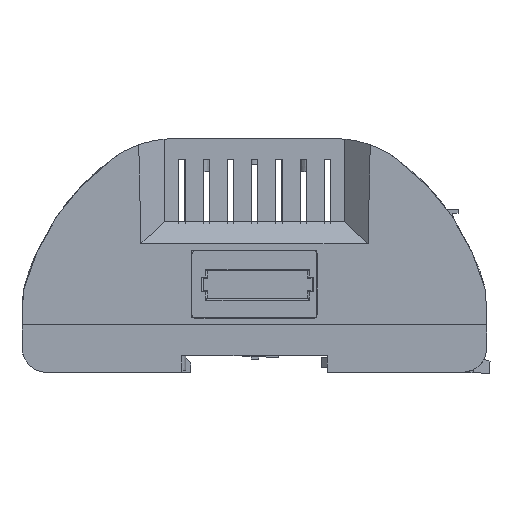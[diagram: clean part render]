
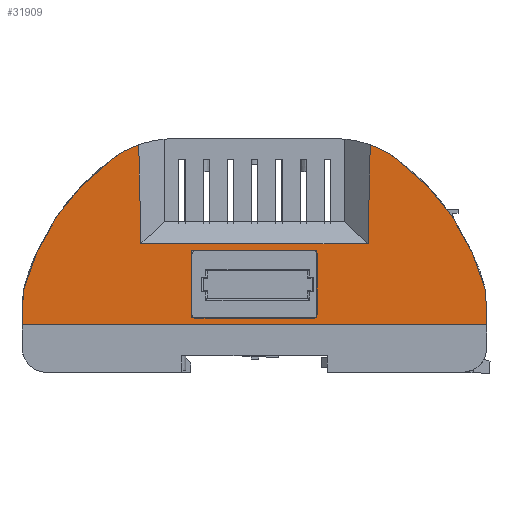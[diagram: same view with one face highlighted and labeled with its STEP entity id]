
A CAD part, front view. The second image highlights one B-rep face of the part: STEP entity #31909.
In plain terms, the highlighted planar face has unit normal (0, -1, 0) as drawn and (-1, 0, 0) by its records, which use the part's own axes.
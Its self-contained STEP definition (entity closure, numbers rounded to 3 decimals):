
#1635=LINE('',#50651,#5247);
#1637=LINE('',#50655,#5249);
#1642=LINE('',#50665,#5254);
#2495=LINE('',#53290,#6107);
#2525=LINE('',#53486,#6137);
#2531=LINE('',#53500,#6143);
#2541=LINE('',#53536,#6153);
#2542=LINE('',#53538,#6154);
#2543=LINE('',#53540,#6155);
#2544=LINE('',#53541,#6156);
#5247=VECTOR('',#38605,1000.);
#5249=VECTOR('',#38609,1000.);
#5254=VECTOR('',#38616,1000.);
#6107=VECTOR('',#40319,1000.);
#6137=VECTOR('',#40373,1000.);
#6143=VECTOR('',#40381,1000.);
#6153=VECTOR('',#40409,1000.);
#6154=VECTOR('',#40412,1000.);
#6155=VECTOR('',#40415,1000.);
#6156=VECTOR('',#40416,1000.);
#12631=ORIENTED_EDGE('',*,*,#19878,.F.);
#12632=ORIENTED_EDGE('',*,*,#19952,.F.);
#12633=ORIENTED_EDGE('',*,*,#19904,.T.);
#12634=ORIENTED_EDGE('',*,*,#19953,.T.);
#12635=ORIENTED_EDGE('',*,*,#19932,.F.);
#12636=ORIENTED_EDGE('',*,*,#19954,.F.);
#12637=ORIENTED_EDGE('',*,*,#19938,.F.);
#12638=ORIENTED_EDGE('',*,*,#19955,.T.);
#12639=ORIENTED_EDGE('',*,*,#19897,.T.);
#12640=ORIENTED_EDGE('',*,*,#19956,.F.);
#12641=ORIENTED_EDGE('',*,*,#18815,.F.);
#12642=ORIENTED_EDGE('',*,*,#18810,.F.);
#12643=ORIENTED_EDGE('',*,*,#18808,.F.);
#12644=ORIENTED_EDGE('',*,*,#19957,.F.);
#18808=EDGE_CURVE('',#23058,#23059,#1635,.T.);
#18810=EDGE_CURVE('',#23059,#23060,#1637,.T.);
#18815=EDGE_CURVE('',#23060,#23063,#1642,.T.);
#19878=EDGE_CURVE('',#23795,#23796,#2495,.T.);
#19897=EDGE_CURVE('',#23807,#23806,#25450,.T.);
#19904=EDGE_CURVE('',#23813,#23812,#25451,.T.);
#19932=EDGE_CURVE('',#23838,#23839,#2525,.T.);
#19938=EDGE_CURVE('',#23844,#23845,#2531,.T.);
#19952=EDGE_CURVE('',#23813,#23795,#2541,.T.);
#19953=EDGE_CURVE('',#23812,#23839,#25453,.T.);
#19954=EDGE_CURVE('',#23845,#23838,#2542,.T.);
#19955=EDGE_CURVE('',#23844,#23807,#25454,.T.);
#19956=EDGE_CURVE('',#23796,#23806,#2543,.T.);
#19957=EDGE_CURVE('',#23063,#23058,#2544,.T.);
#23058=VERTEX_POINT('',#50650);
#23059=VERTEX_POINT('',#50652);
#23060=VERTEX_POINT('',#50656);
#23063=VERTEX_POINT('',#50663);
#23795=VERTEX_POINT('',#53289);
#23796=VERTEX_POINT('',#53291);
#23806=VERTEX_POINT('',#53335);
#23807=VERTEX_POINT('',#53337);
#23812=VERTEX_POINT('',#53355);
#23813=VERTEX_POINT('',#53357);
#23838=VERTEX_POINT('',#53487);
#23839=VERTEX_POINT('',#53488);
#23844=VERTEX_POINT('',#53499);
#23845=VERTEX_POINT('',#53501);
#25450=CIRCLE('',#35059,25.);
#25451=CIRCLE('',#35061,25.);
#25453=CIRCLE('',#35079,58.148);
#25454=CIRCLE('',#35080,58.148);
#26688=EDGE_LOOP('',(#12631,#12632,#12633,#12634,#12635,#12636,#12637,#12638,
#12639,#12640));
#26689=EDGE_LOOP('',(#12641,#12642,#12643,#12644));
#28657=FACE_BOUND('',#26688,.T.);
#28658=FACE_BOUND('',#26689,.T.);
#30320=PLANE('',#35078);
#31909=ADVANCED_FACE('',(#28657,#28658),#30320,.T.);
#35059=AXIS2_PLACEMENT_3D('',#53336,#40336,#40337);
#35061=AXIS2_PLACEMENT_3D('',#53356,#40344,#40345);
#35078=AXIS2_PLACEMENT_3D('',#53535,#40407,#40408);
#35079=AXIS2_PLACEMENT_3D('',#53537,#40410,#40411);
#35080=AXIS2_PLACEMENT_3D('',#53539,#40413,#40414);
#38605=DIRECTION('',(0.,1.,0.));
#38609=DIRECTION('',(0.,0.,-1.));
#38616=DIRECTION('',(0.,-1.,0.));
#40319=DIRECTION('',(0.,0.,1.));
#40336=DIRECTION('',(-1.,0.,0.));
#40337=DIRECTION('',(0.,0.,1.));
#40344=DIRECTION('',(-1.,0.,0.));
#40345=DIRECTION('',(0.,0.,1.));
#40373=DIRECTION('',(0.,0.999,0.035));
#40381=DIRECTION('',(0.,-0.999,0.035));
#40407=DIRECTION('',(-1.,0.,0.));
#40408=DIRECTION('',(0.,0.,1.));
#40409=DIRECTION('',(0.,-1.,0.022));
#40410=DIRECTION('',(-1.,0.,0.));
#40411=DIRECTION('',(0.,0.,1.));
#40412=DIRECTION('',(0.,0.,-1.));
#40413=DIRECTION('',(-1.,0.,0.));
#40414=DIRECTION('',(0.,0.,1.));
#40415=DIRECTION('',(0.,1.,0.022));
#40416=DIRECTION('',(0.,0.,1.));
#50650=CARTESIAN_POINT('',(-58.,3.9,15.2));
#50651=CARTESIAN_POINT('',(-58.,20.4,15.2));
#50652=CARTESIAN_POINT('',(-58.,20.4,15.2));
#50655=CARTESIAN_POINT('',(-58.,20.4,-15.3));
#50656=CARTESIAN_POINT('',(-58.,20.4,-15.3));
#50663=CARTESIAN_POINT('',(-58.,3.9,-15.3));
#50665=CARTESIAN_POINT('',(-58.,20.4,-15.3));
#53289=CARTESIAN_POINT('',(-58.,21.986,-27.621));
#53290=CARTESIAN_POINT('',(-58.,21.986,0.));
#53291=CARTESIAN_POINT('',(-58.,21.986,27.621));
#53335=CARTESIAN_POINT('',(-58.,46.03,28.161));
#53336=CARTESIAN_POINT('',(-58.,22.5,19.715));
#53337=CARTESIAN_POINT('',(-58.,42.598,34.584));
#53355=CARTESIAN_POINT('',(-58.,42.598,-34.584));
#53356=CARTESIAN_POINT('',(-58.,22.5,-19.715));
#53357=CARTESIAN_POINT('',(-58.,46.03,-28.161));
#53486=CARTESIAN_POINT('',(-58.,-2.169,-56.685));
#53487=CARTESIAN_POINT('',(-58.,2.25,-56.531));
#53488=CARTESIAN_POINT('',(-58.,10.632,-56.238));
#53499=CARTESIAN_POINT('',(-58.,10.632,56.238));
#53500=CARTESIAN_POINT('',(-58.,-2.169,56.685));
#53501=CARTESIAN_POINT('',(-58.,2.25,56.531));
#53535=CARTESIAN_POINT('',(-58.,-4.148,0.));
#53536=CARTESIAN_POINT('',(-58.,-4.755,-27.021));
#53537=CARTESIAN_POINT('',(-58.,-4.148,0.));
#53538=CARTESIAN_POINT('',(-58.,2.25,0.));
#53539=CARTESIAN_POINT('',(-58.,-4.148,0.));
#53540=CARTESIAN_POINT('',(-58.,-4.755,27.021));
#53541=CARTESIAN_POINT('',(-58.,3.9,-15.3));
